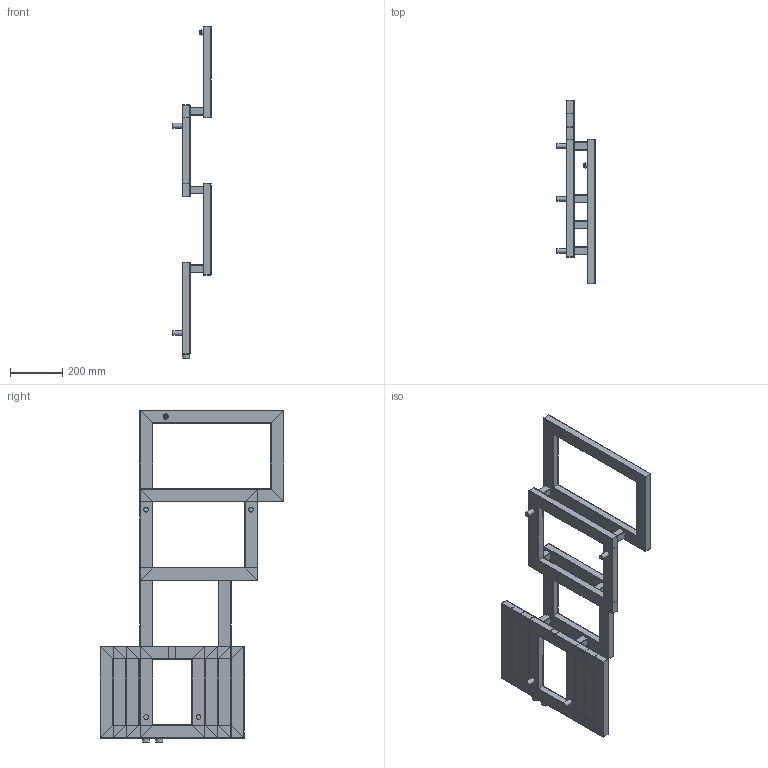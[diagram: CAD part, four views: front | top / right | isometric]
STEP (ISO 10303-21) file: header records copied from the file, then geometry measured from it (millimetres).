
FILE_DESCRIPTION( ( 'Unknown' ), '1' );
FILE_NAME( 'D:/RYSUNKI/RYSUNKI SOLID/SEJWAL/NOWE/PROFILE/EXUMA/EXUMA.stp', 'Unknown', ( 'Unknown' ), ( 'Unknown' ), 'XStep 1.0', 'Unknown', ' ' );
FILE_SCHEMA( ( 'automotive_design' ) );
Length unit declared in the file: millimetre
Products named in the file (13): Assem1; Assem2; Assem3; Assem4; Assem5; P250; P350; P450; P550; P50-30x30; PRZY｣ACZ; ODPOWIETRZNIK; MOCOWANIE
Bounding box: 145 x 700 x 1265 mm (x, y, z)
Volume: 3756398.1 mm3; surface area: 3754664 mm2
Topology: 53 solids, 53 shells, 777 faces, 2002 edges, 1335 vertices
Faces by surface type: plane 454, cylinder 307, torus 14, cone 2
Full cylindrical faces by diameter (mm): 4.066 x2, 18 x5, 20 x2, 21.49 x3, 26 x3
Entity records: 5986 total; most frequent: CARTESIAN_POINT 1912, DIRECTION 798, ORIENTED_EDGE 752, EDGE_CURVE 376, AXIS2_PLACEMENT_3D 299, VERTEX_POINT 257, LINE 200, VECTOR 200
